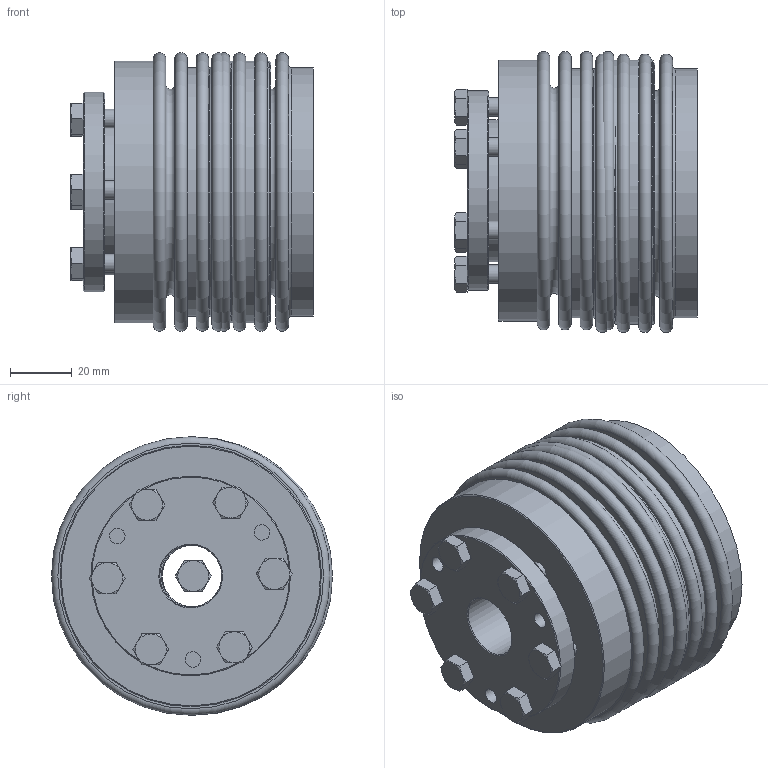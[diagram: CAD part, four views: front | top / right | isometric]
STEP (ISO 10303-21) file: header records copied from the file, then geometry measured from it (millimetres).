
FILE_DESCRIPTION( ( 'Unknown' ), '1' );
FILE_NAME( 'C:/Dokumente und Einstellungen/Sven/Desktop/homepage/cad - homepage/KB5/KB5-200-78.stp', 'Unknown', ( 'Unknown' ), ( 'Unknown' ), 'XStep 1.0', 'Unknown', ' ' );
FILE_SCHEMA( ( 'automotive_design' ) );
Length unit declared in the file: millimetre
Products named in the file (5): Assem1; BA200_Standard; Hex Screw GradeC_ISO_ISO 4018 - M6 x 25-NN; BK200_Standard; KB200_Standard
Bounding box: 78.39 x 90.81 x 89.99 mm (x, y, z)
Volume: 370287.9 mm3; surface area: 210092.4 mm2
Topology: 21 solids, 21 shells, 418 faces, 872 edges, 547 vertices
Faces by surface type: plane 171, cone 127, cylinder 81, torus 39
Full cylindrical faces by diameter (mm): 5 x9, 6 x31, 6.5 x18, 20 x3, 46 x3, 63 x3, 64.5 x3, 79.2 x4, 80.4 x4, 84.5 x3
Entity records: 2578 total; most frequent: DIRECTION 446, CARTESIAN_POINT 392, ORIENTED_EDGE 254, AXIS2_PLACEMENT_3D 217, EDGE_LOOP 208, FACE_OUTER_BOUND 140, EDGE_CURVE 127, VERTEX_POINT 115
